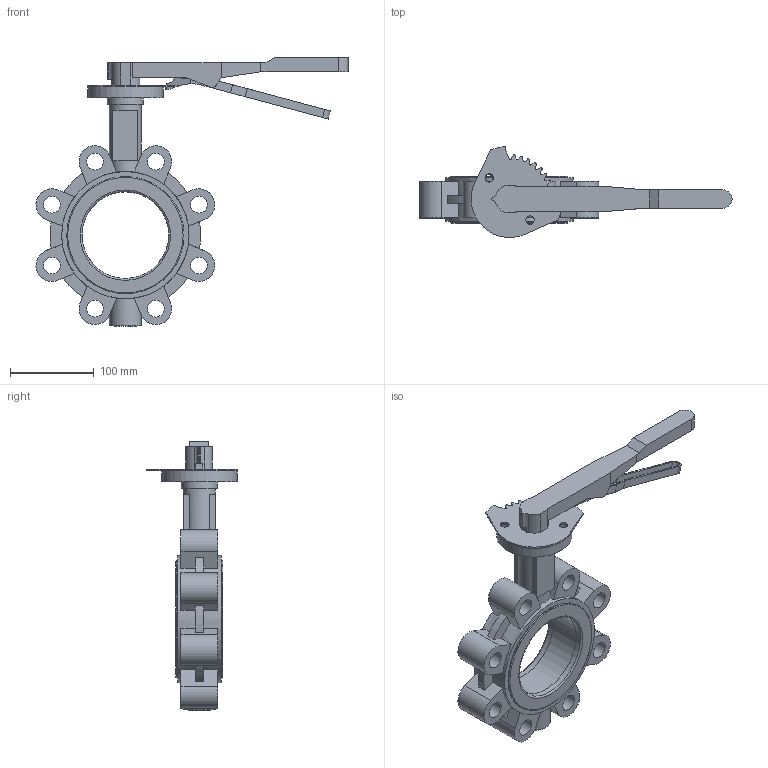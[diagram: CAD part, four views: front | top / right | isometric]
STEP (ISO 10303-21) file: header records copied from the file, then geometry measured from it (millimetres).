
FILE_DESCRIPTION (( 'STEP AP203' ), '1' );
FILE_NAME ('2502 LT型中线衬胶带销 手柄蝶阀 DN100 PN25 CD0309071.STEP', '2026-04-14T00:41:01', ( '' ), ( '' ), 'SwSTEP 2.0', 'SolidWorks 2018', '' );
FILE_SCHEMA (( 'CONFIG_CONTROL_DESIGN' ));
Length unit declared in the file: millimetre
Products named in the file (8): 新型玛钢手柄主手柄-DN100-DN125-立方孔11-9004; GALA-D100-04AZC-00; 新型玛钢手柄副手柄-DN100-DN125-9004; 新型玛钢手柄装配体(带盖)-DN100-DN125-立方孔14-9004; 新型玛钢手柄齿盘(不锈钢)-DN100-DN150; 2502 LT型中线衬胶带销 手柄蝶阀 DN100 PN25 CD0309071; GALA-D100-01LC25-00; M22X1.5内六角螺塞
Assembly tree (7 placements, depth 3):
  2502 LT型中线衬胶带销 手柄蝶阀 DN100 PN25 CD0309071
    GALA-D100-01LC25-00
    GALA-D100-04AZC-00
    M22X1.5内六角螺塞
    新型玛钢手柄装配体(带盖)-DN100-DN125-立方孔14-9004
      新型玛钢手柄主手柄-DN100-DN125-立方孔11-9004
      新型玛钢手柄齿盘(不锈钢)-DN100-DN150
      新型玛钢手柄副手柄-DN100-DN125-9004
Bounding box: 372.64 x 108.6 x 321 mm (x, y, z)
Volume: 1220689.9 mm3; surface area: 278825.7 mm2
Topology: 6 solids, 6 shells, 300 faces, 809 edges, 528 vertices
Faces by surface type: plane 167, cylinder 115, cone 9, torus 9
Full cylindrical faces by diameter (mm): 10 x6, 20 x8, 22 x1, 27 x2, 29 x1, 30 x1, 38 x2, 43 x1, 90 x1, 103.42 x1, 113 x2, 140 x4, 152 x2
Entity records: 10190 total; most frequent: CARTESIAN_POINT 1820, DIRECTION 1609, ORIENTED_EDGE 1506, EDGE_CURVE 753, AXIS2_PLACEMENT_3D 579, VERTEX_POINT 522, LINE 451, VECTOR 451
